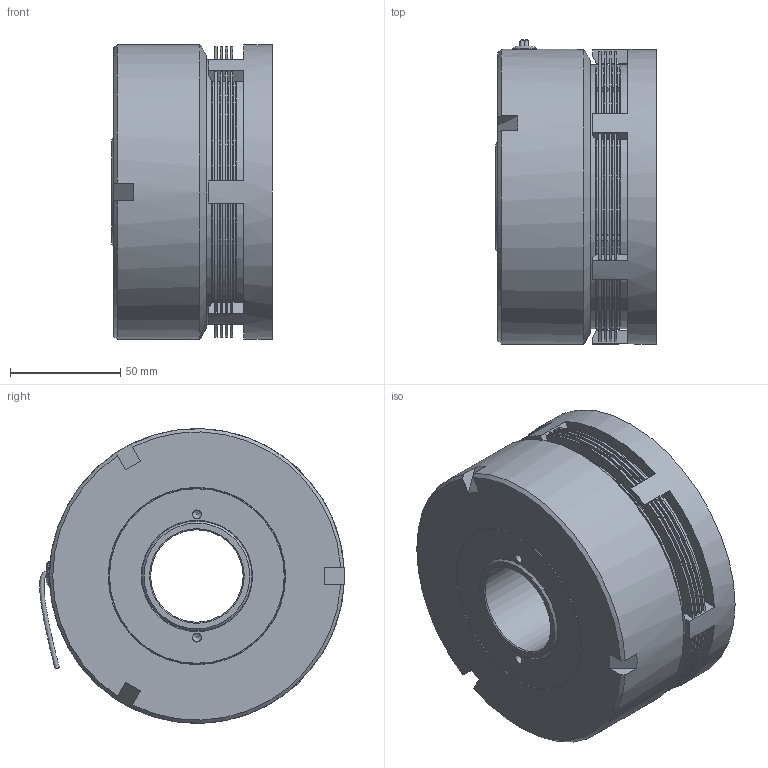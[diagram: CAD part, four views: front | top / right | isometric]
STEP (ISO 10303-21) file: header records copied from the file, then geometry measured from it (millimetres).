
FILE_DESCRIPTION((''),'2;1');
FILE_NAME('\\Srv-tecnico\DATI\UFFICIO TECNICO\ARCHIVIO INVENTOR\DISEGNI\UFFICIO TECNICO\05_Friz_Elettromagnetiche_Lamellari\05_05 ESB_S\05_05_134_01 ESB134_S\05_05_134_01 ESB-134_S@STEP.stp','2014-07-24T14:44:47',('stefano'),(''),'Autodesk Inventor 2010','Autodesk Inventor 2010','');
FILE_SCHEMA(('AUTOMOTIVE_DESIGN { 1 0 10303 214 1 1 1 1 }'));
Length unit declared in the file: millimetre
Products named in the file (1): 05_05_134_01 ESB-134_S_Sostituto_1
Bounding box: 73 x 138.44 x 134 mm (x, y, z)
Volume: 607059.3 mm3; surface area: 312561.1 mm2
Topology: 2 solids, 2 shells, 2956 faces, 13064 edges, 8638 vertices
Faces by surface type: bspline 1777, cylinder 798, plane 351, cone 30
Full cylindrical faces by diameter (mm): 4 x1, 11 x1, 42 x1, 50 x3, 60 x1, 63 x1, 65.8 x1, 66 x1, 80 x2, 83.5 x1, 86 x2, 95 x2, 104 x1, 117 x2, 120 x2, 120.2 x1, 122 x1, 134 x2
Entity records: 174672 total; most frequent: CARTESIAN_POINT 84806, ORIENTED_EDGE 25996, EDGE_CURVE 12998, DIRECTION 9619, VERTEX_POINT 8624, B_SPLINE_CURVE_WITH_KNOTS 7255, EDGE_LOOP 3775, AXIS2_PLACEMENT_3D 3547
